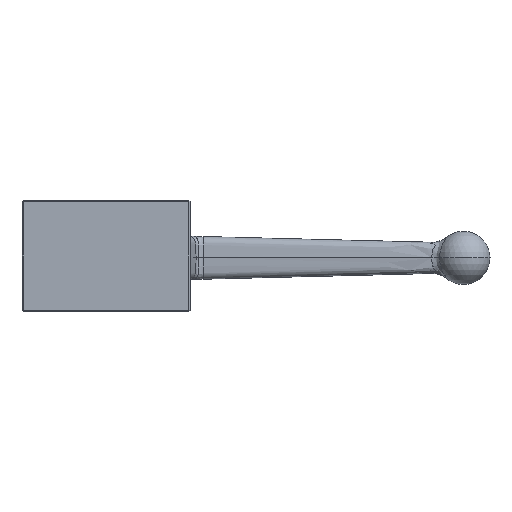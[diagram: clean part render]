
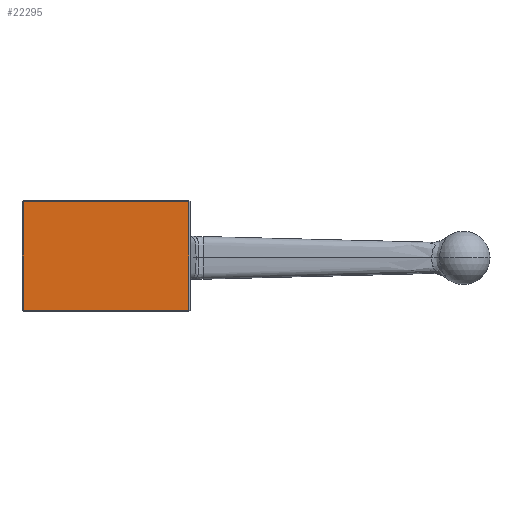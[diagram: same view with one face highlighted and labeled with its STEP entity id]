
A CAD part, left-side view. The second image highlights one B-rep face of the part: STEP entity #22295.
In plain terms, the highlighted planar face has unit normal (-1, 0, 0).
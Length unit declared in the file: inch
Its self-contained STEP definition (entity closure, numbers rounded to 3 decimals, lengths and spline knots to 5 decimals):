
#219 = ORIENTED_EDGE ( 'NONE', *, *, #35435, .T. ) ;
#1009 = CARTESIAN_POINT ( 'NONE',  ( -2.0953, -0.04445, 2.37981 ) ) ;
#1384 = DIRECTION ( 'NONE',  ( 0., -1., 0. ) ) ;
#3207 = FACE_OUTER_BOUND ( 'NONE', #17846, .T. ) ;
#5307 = CARTESIAN_POINT ( 'NONE',  ( -2.0953, -0.04445, 2.39981 ) ) ;
#6783 = PLANE ( 'NONE',  #19926 ) ;
#6889 = VECTOR ( 'NONE', #58651, 39.37008 ) ;
#7154 = EDGE_CURVE ( 'NONE', #31726, #10559, #42211, .T. ) ;
#10559 = VERTEX_POINT ( 'NONE', #21513 ) ;
#11944 = VECTOR ( 'NONE', #19000, 39.37008 ) ;
#13223 = VERTEX_POINT ( 'NONE', #1009 ) ;
#15992 = DIRECTION ( 'NONE',  ( 0., 1., 0. ) ) ;
#17846 = EDGE_LOOP ( 'NONE', ( #52475, #55809, #219, #20187 ) ) ;
#17897 = LINE ( 'NONE', #49188, #42732 ) ;
#19000 = DIRECTION ( 'NONE',  ( 0., 0., 1. ) ) ;
#19926 = AXIS2_PLACEMENT_3D ( 'NONE', #39246, #43993, #15992 ) ;
#20187 = ORIENTED_EDGE ( 'NONE', *, *, #7154, .T. ) ;
#21513 = CARTESIAN_POINT ( 'NONE',  ( -2.0953, -0.04445, 0.43481 ) ) ;
#22078 = EDGE_CURVE ( 'NONE', #13223, #28372, #17897, .T. ) ;
#22295 = ADVANCED_FACE ( 'NONE', ( #3207 ), #6783, .F. ) ;
#27978 = LINE ( 'NONE', #5307, #11944 ) ;
#28372 = VERTEX_POINT ( 'NONE', #31674 ) ;
#31674 = CARTESIAN_POINT ( 'NONE',  ( -2.0953, 2.91555, 2.37981 ) ) ;
#31726 = VERTEX_POINT ( 'NONE', #54420 ) ;
#35435 = EDGE_CURVE ( 'NONE', #28372, #31726, #49734, .T. ) ;
#37142 = CARTESIAN_POINT ( 'NONE',  ( -2.0953, -0.06445, 0.43481 ) ) ;
#39246 = CARTESIAN_POINT ( 'NONE',  ( -2.0953, -0.06445, 2.39981 ) ) ;
#39935 = CARTESIAN_POINT ( 'NONE',  ( -2.0953, 2.91555, 2.39981 ) ) ;
#41697 = VECTOR ( 'NONE', #1384, 39.37008 ) ;
#42211 = LINE ( 'NONE', #37142, #41697 ) ;
#42732 = VECTOR ( 'NONE', #53367, 39.37008 ) ;
#43993 = DIRECTION ( 'NONE',  ( 1., 0., 0. ) ) ;
#49188 = CARTESIAN_POINT ( 'NONE',  ( -2.0953, -0.06445, 2.37981 ) ) ;
#49626 = EDGE_CURVE ( 'NONE', #10559, #13223, #27978, .T. ) ;
#49734 = LINE ( 'NONE', #39935, #6889 ) ;
#52475 = ORIENTED_EDGE ( 'NONE', *, *, #49626, .T. ) ;
#53367 = DIRECTION ( 'NONE',  ( 0., 1., 0. ) ) ;
#54420 = CARTESIAN_POINT ( 'NONE',  ( -2.0953, 2.91555, 0.43481 ) ) ;
#55809 = ORIENTED_EDGE ( 'NONE', *, *, #22078, .T. ) ;
#58651 = DIRECTION ( 'NONE',  ( 0., 0., -1. ) ) ;
